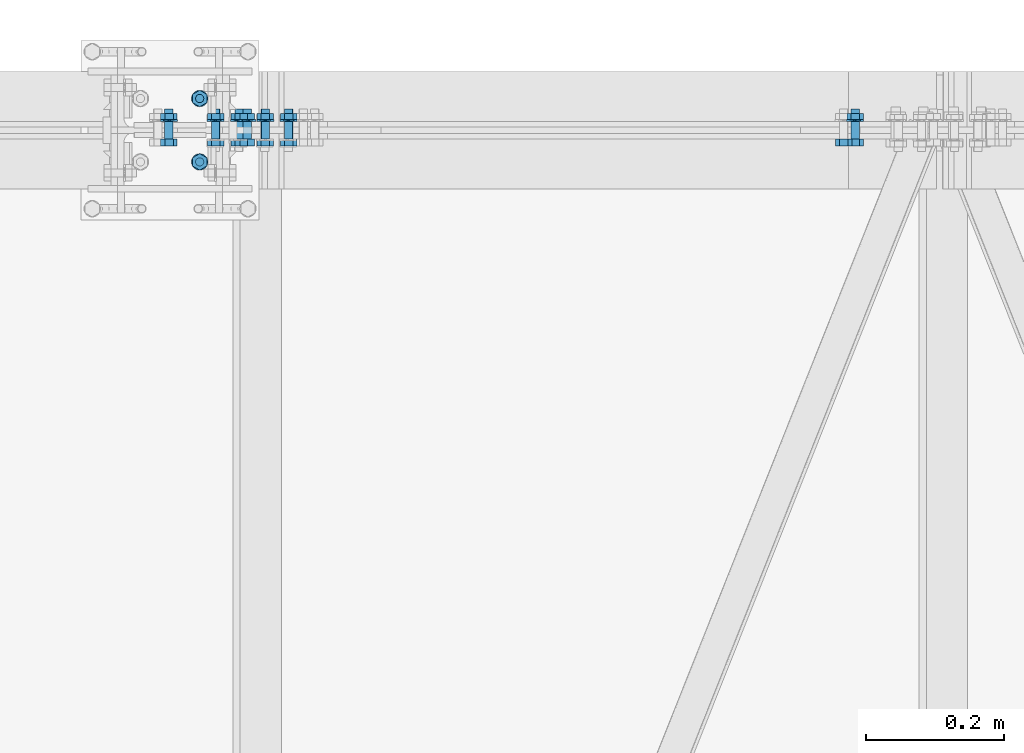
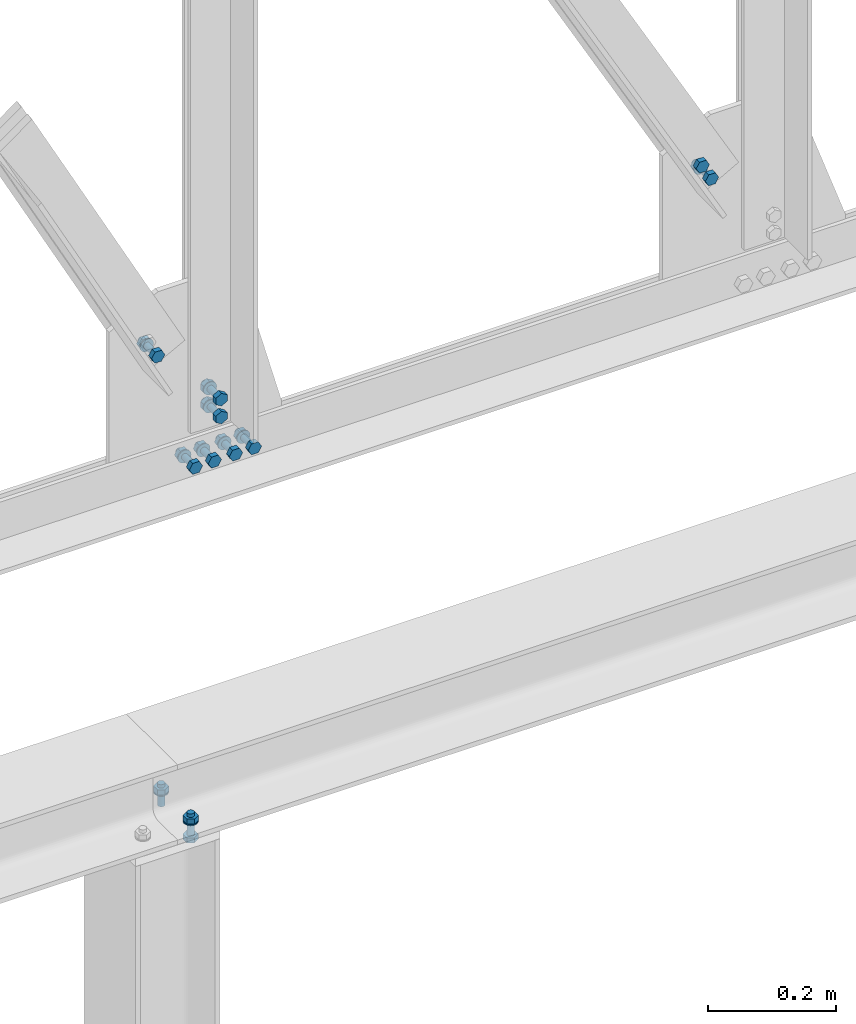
# One storey, part 203 of 251: 40 mechanical fasteners.
"""IFC4 building model written with IfcOpenShell, lengths in metres."""

from ifc_helpers import new_model, si_unit, frame, origin_with_axes, place, context, project, spatial, polyline, outline, extrude, type_object, element, save


model = new_model("IFC4")

# Units and contexts
model_context = context("Model", 3, precision=1e-05, world=origin_with_axes())
ifc_project = project(units=[si_unit("LENGTHUNIT", "METRE"), si_unit("AREAUNIT", "SQUARE_METRE"), si_unit("VOLUMEUNIT", "CUBIC_METRE"), si_unit("MASSUNIT", "GRAM", prefix="KILO"), si_unit("TIMEUNIT", "SECOND"), si_unit("PLANEANGLEUNIT", "RADIAN"), si_unit("SOLIDANGLEUNIT", "STERADIAN"), si_unit("THERMODYNAMICTEMPERATUREUNIT", "DEGREE_CELSIUS")], contexts=[model_context])

# Site, building, storey
placement_1 = place(None, origin_with_axes())
site = spatial("IfcSite", under=ifc_project, at=placement_1, Name="Italia", CompositionType="ELEMENT")
building = spatial("IfcBuilding", under=site, at=placement_1, Name="Deposito", CompositionType="ELEMENT")
storey = spatial("IfcBuildingStorey", under=building, at=placement_1, Name="Storey 0", CompositionType="ELEMENT", Elevation=0.0)

# Mechanical fasteners
mechanical_fastener_type_1 = type_object("IfcMechanicalFastenerType", Name="Collegamenti 7068_-014 7074_-015", PredefinedType="BOLT")
placement_2 = place(placement_1, origin_with_axes())
mechanical_fastener_1_placement = place(placement_2, origin_with_axes())
element("IfcMechanicalFastener", 1, at=mechanical_fastener_1_placement, inside=storey, type_object=mechanical_fastener_type_1, Name="Collegamenti 7068_-014 7074_-015", NominalDiameter=0.012, context=model_context, shape_type="SweptSolid", body=[
    extrude(outline(polyline([(0.0, 0.0), (-0.000204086, -0.00155258), (-0.000804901, -0.00300026), (-0.00175858, -0.0042429), (-0.00300026, -0.00519657), (-0.00444794, -0.00579548), (-0.00600052, -0.00599957), (-0.0075531, -0.00579548), (-0.00900078, -0.00519657), (-0.0102425, -0.0042429), (-0.0111961, -0.00300026), (-0.011797, -0.00155258), (-0.012001, 0.0), (-0.011797, 0.00155258), (-0.0111961, 0.00300026), (-0.0102425, 0.0042429), (-0.00900078, 0.00519657), (-0.0075531, 0.00579548), (-0.00600052, 0.00599957), (-0.00444794, 0.00579548), (-0.00300026, 0.00519657), (-0.00175858, 0.0042429), (-0.000804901, 0.00300026), (-0.000204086, 0.00155258), (0.0, 0.0)])), frame((10.958, 20.052, 4.375), z_axis=(0.0, 0.0, -1.0), x_axis=(0.0, 1.0, 0.0)), (0.0, 0.0, 1.0), 0.0419998),
])
mechanical_fastener_type_2 = type_object("IfcMechanicalFastenerType", Name="Collegamenti 7068_-014 7074_-015", PredefinedType="BOLT")
mechanical_fastener_2_placement = place(placement_2, origin_with_axes())
element("IfcMechanicalFastener", 2, at=mechanical_fastener_2_placement, inside=storey, type_object=mechanical_fastener_type_2, Name="Collegamenti 7068_-014 7074_-015", NominalDiameter=0.0119991, context=model_context, shape_type="SweptSolid", body=[
    extrude(outline(polyline([(0.0, 0.0), (0.0119991, 0.0), (0.0179996, -0.0103922), (0.0119991, -0.0207844), (0.0, -0.0207844), (-0.00600052, -0.0103922), (0.0, 0.0)])), frame((10.9684, 20.04, 4.3686), z_axis=(0.0, 0.0, -1.0), x_axis=(0.0, 1.0, 0.0)), (0.0, 0.0, 1.0), 0.00959969),
])
mechanical_fastener_type_3 = type_object("IfcMechanicalFastenerType", Name="Collegamenti 7068_-014 7074_-015", PredefinedType="BOLT")
mechanical_fastener_3_placement = place(placement_2, origin_with_axes())
element("IfcMechanicalFastener", 3, at=mechanical_fastener_3_placement, inside=storey, type_object=mechanical_fastener_type_3, Name="Collegamenti 7068_-014 7074_-015", NominalDiameter=0.024, context=model_context, shape_type="SweptSolid", body=[
    extrude(outline(polyline([(0.0, 0.0), (-0.000408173, -0.00310612), (-0.00160599, -0.00599957), (-0.00351334, -0.00848484), (-0.00599861, -0.0103922), (-0.00889397, -0.011591), (-0.0119991, -0.0120001), (-0.0151043, -0.011591), (-0.0179996, -0.0103922), (-0.0204849, -0.00848484), (-0.0223923, -0.00599957), (-0.0235901, -0.00310612), (-0.0239983, 0.0), (-0.0235901, 0.00310612), (-0.0223923, 0.00599957), (-0.0204849, 0.00848484), (-0.0179996, 0.0103922), (-0.0151043, 0.011591), (-0.0119991, 0.0120001), (-0.00889397, 0.011591), (-0.00599861, 0.0103922), (-0.00351334, 0.00848484), (-0.00160599, 0.00599957), (-0.000408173, 0.00310612), (0.0, 0.0)])), frame((10.958, 20.058, 4.359), z_axis=(0.0, 0.0, -1.0), x_axis=(0.0, 1.0, 0.0)), (0.0, 0.0, 1.0), 0.00200033),
])
mechanical_fastener_type_4 = type_object("IfcMechanicalFastenerType", Name="Collegamenti 7068_-014 7074_-015", PredefinedType="BOLT")
mechanical_fastener_4_placement = place(placement_2, origin_with_axes())
element("IfcMechanicalFastener", 4, at=mechanical_fastener_4_placement, inside=storey, type_object=mechanical_fastener_type_4, Name="Collegamenti 7068_-014 7074_-015", NominalDiameter=0.0119991, context=model_context, shape_type="SweptSolid", body=[
    extrude(outline(polyline([(0.0, 0.0), (0.0119991, 0.0), (0.0179996, -0.0103922), (0.0119991, -0.0207844), (0.0, -0.0207844), (-0.00600052, -0.0103922), (0.0, 0.0)])), frame((10.9684, 19.948, 4.333), z_axis=(0.0, 0.0, -1.0), x_axis=(0.0, 1.0, 0.0)), (0.0, 0.0, 1.0), 0.00960016),
])
mechanical_fastener_type_5 = type_object("IfcMechanicalFastenerType", Name="Collegamenti 7068_-014 7074_-015", PredefinedType="BOLT")
mechanical_fastener_5_placement = place(placement_2, origin_with_axes())
element("IfcMechanicalFastener", 5, at=mechanical_fastener_5_placement, inside=storey, type_object=mechanical_fastener_type_5, Name="Collegamenti 7068_-014 7074_-015", NominalDiameter=0.012, context=model_context, shape_type="SweptSolid", body=[
    extrude(outline(polyline([(0.0, 0.0), (-0.000204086, -0.00155258), (-0.000804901, -0.00300026), (-0.00175858, -0.0042429), (-0.00300026, -0.00519657), (-0.00444794, -0.00579548), (-0.00600052, -0.00599957), (-0.0075531, -0.00579548), (-0.00900078, -0.00519657), (-0.0102425, -0.0042429), (-0.0111961, -0.00300026), (-0.011797, -0.00155258), (-0.012001, 0.0), (-0.011797, 0.00155258), (-0.0111961, 0.00300026), (-0.0102425, 0.0042429), (-0.00900078, 0.00519657), (-0.0075531, 0.00579548), (-0.00600052, 0.00599957), (-0.00444794, 0.00579548), (-0.00300026, 0.00519657), (-0.00175858, 0.0042429), (-0.000804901, 0.00300026), (-0.000204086, 0.00155258), (0.0, 0.0)])), frame((10.958, 19.96, 4.375), z_axis=(0.0, 0.0, -1.0), x_axis=(0.0, 1.0, 0.0)), (0.0, 0.0, 1.0), 0.0419998),
])
mechanical_fastener_type_6 = type_object("IfcMechanicalFastenerType", Name="Collegamenti 7068_-014 7074_-015", PredefinedType="BOLT")
mechanical_fastener_6_placement = place(placement_2, origin_with_axes())
element("IfcMechanicalFastener", 6, at=mechanical_fastener_6_placement, inside=storey, type_object=mechanical_fastener_type_6, Name="Collegamenti 7068_-014 7074_-015", NominalDiameter=0.0119991, context=model_context, shape_type="SweptSolid", body=[
    extrude(outline(polyline([(0.0, 0.0), (0.0119991, 0.0), (0.0179996, -0.0103922), (0.0119991, -0.0207844), (0.0, -0.0207844), (-0.00600052, -0.0103922), (0.0, 0.0)])), frame((10.9684, 19.948, 4.3686), z_axis=(0.0, 0.0, -1.0), x_axis=(0.0, 1.0, 0.0)), (0.0, 0.0, 1.0), 0.00959969),
])
mechanical_fastener_type_7 = type_object("IfcMechanicalFastenerType", Name="Collegamenti 7068_-014 7074_-015", PredefinedType="BOLT")
mechanical_fastener_7_placement = place(placement_2, origin_with_axes())
element("IfcMechanicalFastener", 7, at=mechanical_fastener_7_placement, inside=storey, type_object=mechanical_fastener_type_7, Name="Collegamenti 7068_-014 7074_-015", NominalDiameter=0.024, context=model_context, shape_type="SweptSolid", body=[
    extrude(outline(polyline([(0.0, 0.0), (-0.000408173, -0.00310612), (-0.00160599, -0.00599957), (-0.00351334, -0.00848484), (-0.00599861, -0.0103922), (-0.00889397, -0.011591), (-0.0119991, -0.0120001), (-0.0151043, -0.011591), (-0.0179996, -0.0103922), (-0.0204849, -0.00848484), (-0.0223923, -0.00599957), (-0.0235901, -0.00310612), (-0.0239983, 0.0), (-0.0235901, 0.00310612), (-0.0223923, 0.00599957), (-0.0204849, 0.00848484), (-0.0179996, 0.0103922), (-0.0151043, 0.011591), (-0.0119991, 0.0120001), (-0.00889397, 0.011591), (-0.00599861, 0.0103922), (-0.00351334, 0.00848484), (-0.00160599, 0.00599957), (-0.000408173, 0.00310612), (0.0, 0.0)])), frame((10.958, 19.966, 4.359), z_axis=(0.0, 0.0, -1.0), x_axis=(0.0, 1.0, 0.0)), (0.0, 0.0, 1.0), 0.00200033),
])
mechanical_fastener_type_8 = type_object("IfcMechanicalFastenerType", Name="Reticolare 6", PredefinedType="BOLT")
mechanical_fastener_8_placement = place(placement_2, origin_with_axes())
element("IfcMechanicalFastener", 8, at=mechanical_fastener_8_placement, inside=storey, type_object=mechanical_fastener_type_8, Name="Reticolare 6", NominalDiameter=0.0119997, context=model_context, shape_type="SweptSolid", body=[
    extrude(outline(polyline([(0.0, 0.0), (-0.0120001, 0.0), (-0.0180006, 0.0103922), (-0.0120001, 0.0207844), (0.0, 0.0207844), (0.00599957, 0.0103922), (0.0, 0.0)])), frame((11.0212, 19.987, 4.99661), z_axis=(0.0, -1.0, 0.0), x_axis=(1.0, 0.0, 0.0)), (0.0, 0.0, 1.0), 0.00959969),
])
mechanical_fastener_type_9 = type_object("IfcMechanicalFastenerType", Name="Reticolare 6", PredefinedType="BOLT")
mechanical_fastener_9_placement = place(placement_2, origin_with_axes())
element("IfcMechanicalFastener", 9, at=mechanical_fastener_9_placement, inside=storey, type_object=mechanical_fastener_type_9, Name="Reticolare 6", NominalDiameter=0.012, context=model_context, shape_type="SweptSolid", body=[
    extrude(outline(polyline([(0.0, 0.0), (-0.000204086, -0.00155306), (-0.000802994, -0.00299978), (-0.00175667, -0.00424242), (-0.00299931, -0.00519609), (-0.00444698, -0.00579548), (-0.00599957, -0.00600004), (-0.00755215, -0.00579548), (-0.00899982, -0.00519609), (-0.0102425, -0.00424242), (-0.0111961, -0.00299978), (-0.011795, -0.00155306), (-0.0119991, 0.0), (-0.011795, 0.00155306), (-0.0111961, 0.00299978), (-0.0102425, 0.00424242), (-0.00899982, 0.00519609), (-0.00755215, 0.00579548), (-0.00599957, 0.00600004), (-0.00444698, 0.00579548), (-0.00299931, 0.00519609), (-0.00175667, 0.00424242), (-0.000802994, 0.00299978), (-0.000204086, 0.00155306), (0.0, 0.0)])), frame((11.0212, 20.031, 5.007), z_axis=(0.0, -1.0, 0.0), x_axis=(1.0, 0.0, 0.0)), (0.0, 0.0, 1.0), 0.0440006),
])
mechanical_fastener_type_10 = type_object("IfcMechanicalFastenerType", Name="Reticolare 6", PredefinedType="BOLT")
mechanical_fastener_10_placement = place(placement_2, origin_with_axes())
element("IfcMechanicalFastener", 10, at=mechanical_fastener_10_placement, inside=storey, type_object=mechanical_fastener_type_10, Name="Reticolare 6", NominalDiameter=0.0119997, context=model_context, shape_type="SweptSolid", body=[
    extrude(outline(polyline([(0.0, 0.0), (-0.0120001, 0.0), (-0.0180006, 0.0103922), (-0.0120001, 0.0207844), (0.0, 0.0207844), (0.00599957, 0.0103922), (0.0, 0.0)])), frame((11.0212, 20.0246, 4.99661), z_axis=(0.0, -1.0, 0.0), x_axis=(1.0, 0.0, 0.0)), (0.0, 0.0, 1.0), 0.00959969),
])
mechanical_fastener_type_11 = type_object("IfcMechanicalFastenerType", Name="Reticolare 6", PredefinedType="BOLT")
mechanical_fastener_11_placement = place(placement_2, origin_with_axes())
element("IfcMechanicalFastener", 11, at=mechanical_fastener_11_placement, inside=storey, type_object=mechanical_fastener_type_11, Name="Reticolare 6", NominalDiameter=0.024, context=model_context, shape_type="SweptSolid", body=[
    extrude(outline(polyline([(0.0, 0.0), (-0.000409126, -0.00310564), (-0.00160789, -0.00600004), (-0.00351524, -0.00848532), (-0.00600052, -0.0103922), (-0.00889397, -0.011591), (-0.0120001, -0.0120001), (-0.0151062, -0.011591), (-0.0179996, -0.0103922), (-0.0204849, -0.00848532), (-0.0223923, -0.00600004), (-0.023591, -0.00310564), (-0.0240002, 0.0), (-0.023591, 0.00310564), (-0.0223923, 0.00600004), (-0.0204849, 0.00848532), (-0.0179996, 0.0103922), (-0.0151062, 0.011591), (-0.0120001, 0.0120001), (-0.00889397, 0.011591), (-0.00600052, 0.0103922), (-0.00351524, 0.00848532), (-0.00160789, 0.00600004), (-0.000409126, 0.00310564), (0.0, 0.0)])), frame((11.0272, 20.015, 5.007), z_axis=(0.0, -1.0, 0.0), x_axis=(1.0, 0.0, 0.0)), (0.0, 0.0, 1.0), 0.0019989),
])
mechanical_fastener_type_12 = type_object("IfcMechanicalFastenerType", Name="Reticolare 6", PredefinedType="BOLT")
mechanical_fastener_12_placement = place(placement_2, origin_with_axes())
element("IfcMechanicalFastener", 12, at=mechanical_fastener_12_placement, inside=storey, type_object=mechanical_fastener_type_12, Name="Reticolare 6", NominalDiameter=0.0119997, context=model_context, shape_type="SweptSolid", body=[
    extrude(outline(polyline([(0.0, 0.0), (-0.0120001, 0.0), (-0.0179996, 0.0103922), (-0.0120001, 0.0207844), (0.0, 0.0207844), (0.00599957, 0.0103922), (0.0, 0.0)])), frame((10.9872, 19.987, 4.99661), z_axis=(0.0, -1.0, 0.0), x_axis=(1.0, 0.0, 0.0)), (0.0, 0.0, 1.0), 0.00959969),
])
mechanical_fastener_type_13 = type_object("IfcMechanicalFastenerType", Name="Reticolare 6", PredefinedType="BOLT")
mechanical_fastener_13_placement = place(placement_2, origin_with_axes())
element("IfcMechanicalFastener", 13, at=mechanical_fastener_13_placement, inside=storey, type_object=mechanical_fastener_type_13, Name="Reticolare 6", NominalDiameter=0.012, context=model_context, shape_type="SweptSolid", body=[
    extrude(outline(polyline([(0.0, 0.0), (-0.000204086, -0.00155306), (-0.000802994, -0.00299978), (-0.00175667, -0.00424242), (-0.00299931, -0.00519609), (-0.00444698, -0.00579548), (-0.00599957, -0.00600004), (-0.00755215, -0.00579548), (-0.00899982, -0.00519609), (-0.0102425, -0.00424242), (-0.0111961, -0.00299978), (-0.011795, -0.00155306), (-0.0119991, 0.0), (-0.011795, 0.00155306), (-0.0111961, 0.00299978), (-0.0102425, 0.00424242), (-0.00899982, 0.00519609), (-0.00755215, 0.00579548), (-0.00599957, 0.00600004), (-0.00444698, 0.00579548), (-0.00299931, 0.00519609), (-0.00175667, 0.00424242), (-0.000802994, 0.00299978), (-0.000204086, 0.00155306), (0.0, 0.0)])), frame((10.9872, 20.031, 5.007), z_axis=(0.0, -1.0, 0.0), x_axis=(1.0, 0.0, 0.0)), (0.0, 0.0, 1.0), 0.0440006),
])
mechanical_fastener_type_14 = type_object("IfcMechanicalFastenerType", Name="Reticolare 6", PredefinedType="BOLT")
mechanical_fastener_14_placement = place(placement_2, origin_with_axes())
element("IfcMechanicalFastener", 14, at=mechanical_fastener_14_placement, inside=storey, type_object=mechanical_fastener_type_14, Name="Reticolare 6", NominalDiameter=0.0119997, context=model_context, shape_type="SweptSolid", body=[
    extrude(outline(polyline([(0.0, 0.0), (-0.0120001, 0.0), (-0.0179996, 0.0103922), (-0.0120001, 0.0207844), (0.0, 0.0207844), (0.00599957, 0.0103922), (0.0, 0.0)])), frame((10.9872, 20.0246, 4.99661), z_axis=(0.0, -1.0, 0.0), x_axis=(1.0, 0.0, 0.0)), (0.0, 0.0, 1.0), 0.00959969),
])
mechanical_fastener_type_15 = type_object("IfcMechanicalFastenerType", Name="Reticolare 6", PredefinedType="BOLT")
mechanical_fastener_15_placement = place(placement_2, origin_with_axes())
element("IfcMechanicalFastener", 15, at=mechanical_fastener_15_placement, inside=storey, type_object=mechanical_fastener_type_15, Name="Reticolare 6", NominalDiameter=0.024, context=model_context, shape_type="SweptSolid", body=[
    extrude(outline(polyline([(0.0, 0.0), (-0.000409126, -0.00310564), (-0.00160789, -0.00600004), (-0.00351524, -0.00848532), (-0.00600052, -0.0103922), (-0.00889397, -0.011591), (-0.0120001, -0.0120001), (-0.0151062, -0.011591), (-0.0179996, -0.0103922), (-0.0204849, -0.00848532), (-0.0223923, -0.00600004), (-0.023591, -0.00310564), (-0.0240002, 0.0), (-0.023591, 0.00310564), (-0.0223923, 0.00600004), (-0.0204849, 0.00848532), (-0.0179996, 0.0103922), (-0.0151062, 0.011591), (-0.0120001, 0.0120001), (-0.00889397, 0.011591), (-0.00600052, 0.0103922), (-0.00351524, 0.00848532), (-0.00160789, 0.00600004), (-0.000409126, 0.00310564), (0.0, 0.0)])), frame((10.9932, 20.015, 5.007), z_axis=(0.0, -1.0, 0.0), x_axis=(1.0, 0.0, 0.0)), (0.0, 0.0, 1.0), 0.0019989),
])
mechanical_fastener_type_16 = type_object("IfcMechanicalFastenerType", Name="Reticolare 6", PredefinedType="BOLT")
mechanical_fastener_16_placement = place(placement_2, origin_with_axes())
element("IfcMechanicalFastener", 16, at=mechanical_fastener_16_placement, inside=storey, type_object=mechanical_fastener_type_16, Name="Reticolare 6", NominalDiameter=0.0119997, context=model_context, shape_type="SweptSolid", body=[
    extrude(outline(polyline([(0.0, 0.0), (-0.0120001, 0.0), (-0.0179996, 0.0103922), (-0.0120001, 0.0207844), (0.0, 0.0207844), (0.00600052, 0.0103922), (0.0, 0.0)])), frame((11.0592, 19.987, 4.99661), z_axis=(0.0, -1.0, 0.0), x_axis=(1.0, 0.0, 0.0)), (0.0, 0.0, 1.0), 0.00959969),
])
mechanical_fastener_type_17 = type_object("IfcMechanicalFastenerType", Name="Reticolare 6", PredefinedType="BOLT")
mechanical_fastener_17_placement = place(placement_2, origin_with_axes())
element("IfcMechanicalFastener", 17, at=mechanical_fastener_17_placement, inside=storey, type_object=mechanical_fastener_type_17, Name="Reticolare 6", NominalDiameter=0.012, context=model_context, shape_type="SweptSolid", body=[
    extrude(outline(polyline([(0.0, 0.0), (-0.000204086, -0.00155306), (-0.000802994, -0.00299978), (-0.00175667, -0.00424242), (-0.00299931, -0.00519609), (-0.00444698, -0.00579548), (-0.00599957, -0.00600004), (-0.00755215, -0.00579548), (-0.00899982, -0.00519609), (-0.0102425, -0.00424242), (-0.0111961, -0.00299978), (-0.011795, -0.00155306), (-0.0119991, 0.0), (-0.011795, 0.00155306), (-0.0111961, 0.00299978), (-0.0102425, 0.00424242), (-0.00899982, 0.00519609), (-0.00755215, 0.00579548), (-0.00599957, 0.00600004), (-0.00444698, 0.00579548), (-0.00299931, 0.00519609), (-0.00175667, 0.00424242), (-0.000802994, 0.00299978), (-0.000204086, 0.00155306), (0.0, 0.0)])), frame((11.0592, 20.031, 5.007), z_axis=(0.0, -1.0, 0.0), x_axis=(1.0, 0.0, 0.0)), (0.0, 0.0, 1.0), 0.0440006),
])
mechanical_fastener_type_18 = type_object("IfcMechanicalFastenerType", Name="Reticolare 6", PredefinedType="BOLT")
mechanical_fastener_18_placement = place(placement_2, origin_with_axes())
element("IfcMechanicalFastener", 18, at=mechanical_fastener_18_placement, inside=storey, type_object=mechanical_fastener_type_18, Name="Reticolare 6", NominalDiameter=0.0119997, context=model_context, shape_type="SweptSolid", body=[
    extrude(outline(polyline([(0.0, 0.0), (-0.0120001, 0.0), (-0.0179996, 0.0103922), (-0.0120001, 0.0207844), (0.0, 0.0207844), (0.00600052, 0.0103922), (0.0, 0.0)])), frame((11.0592, 20.0246, 4.99661), z_axis=(0.0, -1.0, 0.0), x_axis=(1.0, 0.0, 0.0)), (0.0, 0.0, 1.0), 0.00959969),
])
mechanical_fastener_type_19 = type_object("IfcMechanicalFastenerType", Name="Reticolare 6", PredefinedType="BOLT")
mechanical_fastener_19_placement = place(placement_2, origin_with_axes())
element("IfcMechanicalFastener", 19, at=mechanical_fastener_19_placement, inside=storey, type_object=mechanical_fastener_type_19, Name="Reticolare 6", NominalDiameter=0.024, context=model_context, shape_type="SweptSolid", body=[
    extrude(outline(polyline([(0.0, 0.0), (-0.000409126, -0.00310564), (-0.00160789, -0.00600004), (-0.00351524, -0.00848532), (-0.00600052, -0.0103922), (-0.00889397, -0.011591), (-0.0120001, -0.0120001), (-0.0151062, -0.011591), (-0.0179996, -0.0103922), (-0.0204849, -0.00848532), (-0.0223923, -0.00600004), (-0.023591, -0.00310564), (-0.0240002, 0.0), (-0.023591, 0.00310564), (-0.0223923, 0.00600004), (-0.0204849, 0.00848532), (-0.0179996, 0.0103922), (-0.0151062, 0.011591), (-0.0120001, 0.0120001), (-0.00889397, 0.011591), (-0.00600052, 0.0103922), (-0.00351524, 0.00848532), (-0.00160789, 0.00600004), (-0.000409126, 0.00310564), (0.0, 0.0)])), frame((11.0652, 20.015, 5.007), z_axis=(0.0, -1.0, 0.0), x_axis=(1.0, 0.0, 0.0)), (0.0, 0.0, 1.0), 0.0019989),
])
mechanical_fastener_type_20 = type_object("IfcMechanicalFastenerType", Name="Reticolare 6", PredefinedType="BOLT")
mechanical_fastener_20_placement = place(placement_2, origin_with_axes())
element("IfcMechanicalFastener", 20, at=mechanical_fastener_20_placement, inside=storey, type_object=mechanical_fastener_type_20, Name="Reticolare 6", NominalDiameter=0.0119997, context=model_context, shape_type="SweptSolid", body=[
    extrude(outline(polyline([(0.0, 0.0), (-0.0120001, 0.0), (-0.0179996, 0.0103922), (-0.0120001, 0.0207844), (0.0, 0.0207844), (0.00599957, 0.0103922), (0.0, 0.0)])), frame((11.0932, 19.987, 4.99661), z_axis=(0.0, -1.0, 0.0), x_axis=(1.0, 0.0, 0.0)), (0.0, 0.0, 1.0), 0.00959969),
])
mechanical_fastener_type_21 = type_object("IfcMechanicalFastenerType", Name="Reticolare 6", PredefinedType="BOLT")
mechanical_fastener_21_placement = place(placement_2, origin_with_axes())
element("IfcMechanicalFastener", 21, at=mechanical_fastener_21_placement, inside=storey, type_object=mechanical_fastener_type_21, Name="Reticolare 6", NominalDiameter=0.012, context=model_context, shape_type="SweptSolid", body=[
    extrude(outline(polyline([(0.0, 0.0), (-0.000204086, -0.00155306), (-0.000802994, -0.00299978), (-0.00175667, -0.00424242), (-0.00299931, -0.00519609), (-0.00444698, -0.00579548), (-0.00599957, -0.00600004), (-0.00755215, -0.00579548), (-0.00899982, -0.00519609), (-0.0102425, -0.00424242), (-0.0111961, -0.00299978), (-0.011795, -0.00155306), (-0.0119991, 0.0), (-0.011795, 0.00155306), (-0.0111961, 0.00299978), (-0.0102425, 0.00424242), (-0.00899982, 0.00519609), (-0.00755215, 0.00579548), (-0.00599957, 0.00600004), (-0.00444698, 0.00579548), (-0.00299931, 0.00519609), (-0.00175667, 0.00424242), (-0.000802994, 0.00299978), (-0.000204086, 0.00155306), (0.0, 0.0)])), frame((11.0932, 20.031, 5.007), z_axis=(0.0, -1.0, 0.0), x_axis=(1.0, 0.0, 0.0)), (0.0, 0.0, 1.0), 0.0440006),
])
mechanical_fastener_type_22 = type_object("IfcMechanicalFastenerType", Name="Reticolare 6", PredefinedType="BOLT")
mechanical_fastener_22_placement = place(placement_2, origin_with_axes())
element("IfcMechanicalFastener", 22, at=mechanical_fastener_22_placement, inside=storey, type_object=mechanical_fastener_type_22, Name="Reticolare 6", NominalDiameter=0.0119997, context=model_context, shape_type="SweptSolid", body=[
    extrude(outline(polyline([(0.0, 0.0), (-0.0120001, 0.0), (-0.0179996, 0.0103922), (-0.0120001, 0.0207844), (0.0, 0.0207844), (0.00599957, 0.0103922), (0.0, 0.0)])), frame((11.0932, 20.0246, 4.99661), z_axis=(0.0, -1.0, 0.0), x_axis=(1.0, 0.0, 0.0)), (0.0, 0.0, 1.0), 0.00959969),
])
mechanical_fastener_type_23 = type_object("IfcMechanicalFastenerType", Name="Reticolare 6", PredefinedType="BOLT")
mechanical_fastener_23_placement = place(placement_2, origin_with_axes())
element("IfcMechanicalFastener", 23, at=mechanical_fastener_23_placement, inside=storey, type_object=mechanical_fastener_type_23, Name="Reticolare 6", NominalDiameter=0.024, context=model_context, shape_type="SweptSolid", body=[
    extrude(outline(polyline([(0.0, 0.0), (-0.000409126, -0.00310564), (-0.00160789, -0.00600004), (-0.00351524, -0.00848532), (-0.00600052, -0.0103922), (-0.00889397, -0.011591), (-0.0120001, -0.0120001), (-0.0151062, -0.011591), (-0.0179996, -0.0103922), (-0.0204849, -0.00848532), (-0.0223923, -0.00600004), (-0.023591, -0.00310564), (-0.0240002, 0.0), (-0.023591, 0.00310564), (-0.0223923, 0.00600004), (-0.0204849, 0.00848532), (-0.0179996, 0.0103922), (-0.0151062, 0.011591), (-0.0120001, 0.0120001), (-0.00889397, 0.011591), (-0.00600052, 0.0103922), (-0.00351524, 0.00848532), (-0.00160789, 0.00600004), (-0.000409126, 0.00310564), (0.0, 0.0)])), frame((11.0992, 20.015, 5.007), z_axis=(0.0, -1.0, 0.0), x_axis=(1.0, 0.0, 0.0)), (0.0, 0.0, 1.0), 0.0019989),
])
mechanical_fastener_type_24 = type_object("IfcMechanicalFastenerType", Name="Reticolare 6", PredefinedType="BOLT")
mechanical_fastener_24_placement = place(placement_2, origin_with_axes())
element("IfcMechanicalFastener", 24, at=mechanical_fastener_24_placement, inside=storey, type_object=mechanical_fastener_type_24, Name="Reticolare 6", NominalDiameter=0.0119999, context=model_context, shape_type="SweptSolid", body=[
    extrude(outline(polyline([(0.0, 0.0), (0.0, -0.0120001), (-0.0103922, -0.0180001), (-0.0207844, -0.0120001), (-0.0207844, 0.0), (-0.0103922, 0.00600004), (0.0, 0.0)])), frame((11.0376, 19.987, 5.09253), z_axis=(0.0, -1.0, 0.0), x_axis=(1.0, 0.0, 0.0)), (0.0, 0.0, 1.0), 0.00959969),
])
mechanical_fastener_type_25 = type_object("IfcMechanicalFastenerType", Name="Reticolare 6", PredefinedType="BOLT")
mechanical_fastener_25_placement = place(placement_2, origin_with_axes())
element("IfcMechanicalFastener", 25, at=mechanical_fastener_25_placement, inside=storey, type_object=mechanical_fastener_type_25, Name="Reticolare 6", NominalDiameter=0.012, context=model_context, shape_type="SweptSolid", body=[
    extrude(outline(polyline([(0.0, 0.0), (-0.000204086, -0.00155306), (-0.000802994, -0.00299978), (-0.00175667, -0.00424242), (-0.00299931, -0.00519609), (-0.00444698, -0.00579548), (-0.00599957, -0.00600004), (-0.00755215, -0.00579548), (-0.00899982, -0.00519609), (-0.0102425, -0.00424242), (-0.0111961, -0.00299978), (-0.011795, -0.00155306), (-0.0119991, 0.0), (-0.011795, 0.00155306), (-0.0111961, 0.00299978), (-0.0102425, 0.00424242), (-0.00899982, 0.00519609), (-0.00755215, 0.00579548), (-0.00599957, 0.00600004), (-0.00444698, 0.00579548), (-0.00299931, 0.00519609), (-0.00175667, 0.00424242), (-0.000802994, 0.00299978), (-0.000204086, 0.00155306), (0.0, 0.0)])), frame((11.0332, 20.031, 5.08653), z_axis=(0.0, -1.0, 0.0), x_axis=(1.0, 0.0, 0.0)), (0.0, 0.0, 1.0), 0.0440006),
])
mechanical_fastener_type_26 = type_object("IfcMechanicalFastenerType", Name="Reticolare 6", PredefinedType="BOLT")
mechanical_fastener_26_placement = place(placement_2, origin_with_axes())
element("IfcMechanicalFastener", 26, at=mechanical_fastener_26_placement, inside=storey, type_object=mechanical_fastener_type_26, Name="Reticolare 6", NominalDiameter=0.0119999, context=model_context, shape_type="SweptSolid", body=[
    extrude(outline(polyline([(0.0, 0.0), (0.0, -0.0120001), (-0.0103922, -0.0180001), (-0.0207844, -0.0120001), (-0.0207844, 0.0), (-0.0103922, 0.00600004), (0.0, 0.0)])), frame((11.0376, 20.0246, 5.09253), z_axis=(0.0, -1.0, 0.0), x_axis=(1.0, 0.0, 0.0)), (0.0, 0.0, 1.0), 0.00959969),
])
mechanical_fastener_type_27 = type_object("IfcMechanicalFastenerType", Name="Reticolare 6", PredefinedType="BOLT")
mechanical_fastener_27_placement = place(placement_2, origin_with_axes())
element("IfcMechanicalFastener", 27, at=mechanical_fastener_27_placement, inside=storey, type_object=mechanical_fastener_type_27, Name="Reticolare 6", NominalDiameter=0.024, context=model_context, shape_type="SweptSolid", body=[
    extrude(outline(polyline([(0.0, 0.0), (-0.000409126, -0.00310564), (-0.00160789, -0.00600004), (-0.00351524, -0.00848532), (-0.00600052, -0.0103922), (-0.00889397, -0.011591), (-0.0120001, -0.0120001), (-0.0151062, -0.011591), (-0.0179996, -0.0103922), (-0.0204849, -0.00848532), (-0.0223923, -0.00600004), (-0.023591, -0.00310564), (-0.0240002, 0.0), (-0.023591, 0.00310564), (-0.0223923, 0.00600004), (-0.0204849, 0.00848532), (-0.0179996, 0.0103922), (-0.0151062, 0.011591), (-0.0120001, 0.0120001), (-0.00889397, 0.011591), (-0.00600052, 0.0103922), (-0.00351524, 0.00848532), (-0.00160789, 0.00600004), (-0.000409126, 0.00310564), (0.0, 0.0)])), frame((11.0392, 20.015, 5.08653), z_axis=(0.0, -1.0, 0.0), x_axis=(1.0, 0.0, 0.0)), (0.0, 0.0, 1.0), 0.0019989),
])
mechanical_fastener_type_28 = type_object("IfcMechanicalFastenerType", Name="Reticolare 6", PredefinedType="BOLT")
mechanical_fastener_28_placement = place(placement_2, origin_with_axes())
element("IfcMechanicalFastener", 28, at=mechanical_fastener_28_placement, inside=storey, type_object=mechanical_fastener_type_28, Name="Reticolare 6", NominalDiameter=0.0119999, context=model_context, shape_type="SweptSolid", body=[
    extrude(outline(polyline([(0.0, 0.0), (0.0, -0.0120001), (-0.0103922, -0.0180001), (-0.0207844, -0.0120001), (-0.0207844, 0.0), (-0.0103922, 0.00600004), (0.0, 0.0)])), frame((11.0376, 19.987, 5.12653), z_axis=(0.0, -1.0, 0.0), x_axis=(1.0, 0.0, 0.0)), (0.0, 0.0, 1.0), 0.00959969),
])
mechanical_fastener_type_29 = type_object("IfcMechanicalFastenerType", Name="Reticolare 6", PredefinedType="BOLT")
mechanical_fastener_29_placement = place(placement_2, origin_with_axes())
element("IfcMechanicalFastener", 29, at=mechanical_fastener_29_placement, inside=storey, type_object=mechanical_fastener_type_29, Name="Reticolare 6", NominalDiameter=0.012, context=model_context, shape_type="SweptSolid", body=[
    extrude(outline(polyline([(0.0, 0.0), (-0.000204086, -0.00155306), (-0.000802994, -0.00299978), (-0.00175667, -0.00424242), (-0.00299931, -0.00519609), (-0.00444698, -0.00579548), (-0.00599957, -0.00600004), (-0.00755215, -0.00579548), (-0.00899982, -0.00519609), (-0.0102425, -0.00424242), (-0.0111961, -0.00299978), (-0.011795, -0.00155306), (-0.0119991, 0.0), (-0.011795, 0.00155306), (-0.0111961, 0.00299978), (-0.0102425, 0.00424242), (-0.00899982, 0.00519609), (-0.00755215, 0.00579548), (-0.00599957, 0.00600004), (-0.00444698, 0.00579548), (-0.00299931, 0.00519609), (-0.00175667, 0.00424242), (-0.000802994, 0.00299978), (-0.000204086, 0.00155306), (0.0, 0.0)])), frame((11.0332, 20.031, 5.12053), z_axis=(0.0, -1.0, 0.0), x_axis=(1.0, 0.0, 0.0)), (0.0, 0.0, 1.0), 0.0440006),
])
mechanical_fastener_type_30 = type_object("IfcMechanicalFastenerType", Name="Reticolare 6", PredefinedType="BOLT")
mechanical_fastener_30_placement = place(placement_2, origin_with_axes())
element("IfcMechanicalFastener", 30, at=mechanical_fastener_30_placement, inside=storey, type_object=mechanical_fastener_type_30, Name="Reticolare 6", NominalDiameter=0.0119999, context=model_context, shape_type="SweptSolid", body=[
    extrude(outline(polyline([(0.0, 0.0), (0.0, -0.0120001), (-0.0103922, -0.0180001), (-0.0207844, -0.0120001), (-0.0207844, 0.0), (-0.0103922, 0.00600004), (0.0, 0.0)])), frame((11.0376, 20.0246, 5.12653), z_axis=(0.0, -1.0, 0.0), x_axis=(1.0, 0.0, 0.0)), (0.0, 0.0, 1.0), 0.00959969),
])
mechanical_fastener_type_31 = type_object("IfcMechanicalFastenerType", Name="Reticolare 6", PredefinedType="BOLT")
mechanical_fastener_31_placement = place(placement_2, origin_with_axes())
element("IfcMechanicalFastener", 31, at=mechanical_fastener_31_placement, inside=storey, type_object=mechanical_fastener_type_31, Name="Reticolare 6", NominalDiameter=0.024, context=model_context, shape_type="SweptSolid", body=[
    extrude(outline(polyline([(0.0, 0.0), (-0.000409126, -0.00310564), (-0.00160789, -0.00600004), (-0.00351524, -0.00848532), (-0.00600052, -0.0103922), (-0.00889397, -0.011591), (-0.0120001, -0.0120001), (-0.0151062, -0.011591), (-0.0179996, -0.0103922), (-0.0204849, -0.00848532), (-0.0223923, -0.00600004), (-0.023591, -0.00310564), (-0.0240002, 0.0), (-0.023591, 0.00310564), (-0.0223923, 0.00600004), (-0.0204849, 0.00848532), (-0.0179996, 0.0103922), (-0.0151062, 0.011591), (-0.0120001, 0.0120001), (-0.00889397, 0.011591), (-0.00600052, 0.0103922), (-0.00351524, 0.00848532), (-0.00160789, 0.00600004), (-0.000409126, 0.00310564), (0.0, 0.0)])), frame((11.0392, 20.015, 5.12053), z_axis=(0.0, -1.0, 0.0), x_axis=(1.0, 0.0, 0.0)), (0.0, 0.0, 1.0), 0.0019989),
])
mechanical_fastener_type_32 = type_object("IfcMechanicalFastenerType", Name="Reticolare 6", PredefinedType="BOLT")
mechanical_fastener_32_placement = place(placement_2, origin_with_axes())
element("IfcMechanicalFastener", 32, at=mechanical_fastener_32_placement, inside=storey, type_object=mechanical_fastener_type_32, Name="Reticolare 6", NominalDiameter=0.0119996, context=model_context, shape_type="SweptSolid", body=[
    extrude(outline(polyline([(0.0, 0.0), (-0.00563812, 0.0105929), (0.000716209, 0.0207725), (0.0127087, 0.020359), (0.0183477, 0.0097661), (0.0119934, -0.000413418), (0.0, 0.0)])), frame((10.9069, 19.987, 5.23209), z_axis=(0.0, -1.0, 0.0), x_axis=(1.0, 0.0, 0.0)), (0.0, 0.0, 1.0), 0.00959969),
])
mechanical_fastener_type_33 = type_object("IfcMechanicalFastenerType", Name="Reticolare 6", PredefinedType="BOLT")
mechanical_fastener_33_placement = place(placement_2, origin_with_axes())
element("IfcMechanicalFastener", 33, at=mechanical_fastener_33_placement, inside=storey, type_object=mechanical_fastener_type_33, Name="Reticolare 6", NominalDiameter=0.012, context=model_context, shape_type="SweptSolid", body=[
    extrude(outline(polyline([(0.0, 0.0), (-0.000204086, -0.00155306), (-0.000802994, -0.00299978), (-0.00175667, -0.00424242), (-0.00299931, -0.00519609), (-0.00444698, -0.00579548), (-0.00599957, -0.00600004), (-0.00755215, -0.00579548), (-0.00899982, -0.00519609), (-0.0102425, -0.00424242), (-0.0111961, -0.00299978), (-0.011795, -0.00155306), (-0.0119991, 0.0), (-0.011795, 0.00155306), (-0.0111961, 0.00299978), (-0.0102425, 0.00424242), (-0.00899982, 0.00519609), (-0.00755215, 0.00579548), (-0.00599957, 0.00600004), (-0.00444698, 0.00579548), (-0.00299931, 0.00519609), (-0.00175667, 0.00424242), (-0.000802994, 0.00299978), (-0.000204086, 0.00155306), (0.0, 0.0)])), frame((10.9192, 20.031, 5.24226), z_axis=(0.0, -1.0, 0.0), x_axis=(1.0, 0.0, 0.0)), (0.0, 0.0, 1.0), 0.0440006),
])
mechanical_fastener_type_34 = type_object("IfcMechanicalFastenerType", Name="Reticolare 6", PredefinedType="BOLT")
mechanical_fastener_34_placement = place(placement_2, origin_with_axes())
element("IfcMechanicalFastener", 34, at=mechanical_fastener_34_placement, inside=storey, type_object=mechanical_fastener_type_34, Name="Reticolare 6", NominalDiameter=0.0119996, context=model_context, shape_type="SweptSolid", body=[
    extrude(outline(polyline([(0.0, 0.0), (-0.00563812, 0.0105929), (0.000716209, 0.0207725), (0.0127087, 0.020359), (0.0183477, 0.0097661), (0.0119934, -0.000413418), (0.0, 0.0)])), frame((10.9069, 20.0246, 5.23209), z_axis=(0.0, -1.0, 0.0), x_axis=(1.0, 0.0, 0.0)), (0.0, 0.0, 1.0), 0.00959969),
])
mechanical_fastener_type_35 = type_object("IfcMechanicalFastenerType", Name="Reticolare 6", PredefinedType="BOLT")
mechanical_fastener_35_placement = place(placement_2, origin_with_axes())
element("IfcMechanicalFastener", 35, at=mechanical_fastener_35_placement, inside=storey, type_object=mechanical_fastener_type_35, Name="Reticolare 6", NominalDiameter=0.024, context=model_context, shape_type="SweptSolid", body=[
    extrude(outline(polyline([(0.0, 0.0), (-0.000409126, -0.00310564), (-0.00160789, -0.00600004), (-0.00351524, -0.00848532), (-0.00600052, -0.0103922), (-0.00889397, -0.011591), (-0.0120001, -0.0120001), (-0.0151062, -0.011591), (-0.0179996, -0.0103922), (-0.0204849, -0.00848532), (-0.0223923, -0.00600004), (-0.023591, -0.00310564), (-0.0240002, 0.0), (-0.023591, 0.00310564), (-0.0223923, 0.00600004), (-0.0204849, 0.00848532), (-0.0179996, 0.0103922), (-0.0151062, 0.011591), (-0.0120001, 0.0120001), (-0.00889397, 0.011591), (-0.00600052, 0.0103922), (-0.00351524, 0.00848532), (-0.00160789, 0.00600004), (-0.000409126, 0.00310564), (0.0, 0.0)])), frame((10.9252, 20.015, 5.24226), z_axis=(0.0, -1.0, 0.0), x_axis=(1.0, 0.0, 0.0)), (0.0, 0.0, 1.0), 0.0019989),
])
mechanical_fastener_type_36 = type_object("IfcMechanicalFastenerType", Name="Reticolare 6", PredefinedType="BOLT")
mechanical_fastener_36_placement = place(placement_2, origin_with_axes())
element("IfcMechanicalFastener", 36, at=mechanical_fastener_36_placement, inside=storey, type_object=mechanical_fastener_type_36, Name="Reticolare 6", NominalDiameter=0.0119994, context=model_context, shape_type="SweptSolid", body=[
    extrude(outline(polyline([(0.0, 0.0), (-0.00584888, 0.0104775), (0.000300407, 0.0207825), (0.0122986, 0.0206094), (0.0181484, 0.0101314), (0.0119991, -0.000173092), (0.0, 0.0)])), frame((11.9034, 19.987, 5.22057), z_axis=(0.0, -1.0, 0.0), x_axis=(1.0, 0.0, 0.0)), (0.0, 0.0, 1.0), 0.00959969),
])
mechanical_fastener_type_37 = type_object("IfcMechanicalFastenerType", Name="Reticolare 6", PredefinedType="BOLT")
mechanical_fastener_37_placement = place(placement_2, origin_with_axes())
element("IfcMechanicalFastener", 37, at=mechanical_fastener_37_placement, inside=storey, type_object=mechanical_fastener_type_37, Name="Reticolare 6", NominalDiameter=0.012, context=model_context, shape_type="SweptSolid", body=[
    extrude(outline(polyline([(0.0, 0.0), (-0.000204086, -0.00155306), (-0.000802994, -0.00299978), (-0.00175667, -0.00424242), (-0.00299931, -0.00519609), (-0.00444698, -0.00579548), (-0.00599957, -0.00600004), (-0.00755215, -0.00579548), (-0.00899982, -0.00519609), (-0.0102425, -0.00424242), (-0.0111961, -0.00299978), (-0.011795, -0.00155306), (-0.0119991, 0.0), (-0.011795, 0.00155306), (-0.0111961, 0.00299978), (-0.0102425, 0.00424242), (-0.00899982, 0.00519609), (-0.00755215, 0.00579548), (-0.00599957, 0.00600004), (-0.00444698, 0.00579548), (-0.00299931, 0.00519609), (-0.00175667, 0.00424242), (-0.000802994, 0.00299978), (-0.000204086, 0.00155306), (0.0, 0.0)])), frame((11.9156, 20.031, 5.23087), z_axis=(0.0, -1.0, 0.0), x_axis=(1.0, 0.0, 0.0)), (0.0, 0.0, 1.0), 0.0440006),
])
mechanical_fastener_type_38 = type_object("IfcMechanicalFastenerType", Name="Reticolare 6", PredefinedType="BOLT")
mechanical_fastener_38_placement = place(placement_2, origin_with_axes())
element("IfcMechanicalFastener", 38, at=mechanical_fastener_38_placement, inside=storey, type_object=mechanical_fastener_type_38, Name="Reticolare 6", NominalDiameter=0.0119994, context=model_context, shape_type="SweptSolid", body=[
    extrude(outline(polyline([(0.0, 0.0), (-0.00584888, 0.0104775), (0.000300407, 0.0207825), (0.0122986, 0.0206094), (0.0181484, 0.0101314), (0.0119991, -0.000173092), (0.0, 0.0)])), frame((11.9034, 20.0246, 5.22057), z_axis=(0.0, -1.0, 0.0), x_axis=(1.0, 0.0, 0.0)), (0.0, 0.0, 1.0), 0.00959969),
])
mechanical_fastener_type_39 = type_object("IfcMechanicalFastenerType", Name="Reticolare 6", PredefinedType="BOLT")
mechanical_fastener_39_placement = place(placement_2, origin_with_axes())
element("IfcMechanicalFastener", 39, at=mechanical_fastener_39_placement, inside=storey, type_object=mechanical_fastener_type_39, Name="Reticolare 6", NominalDiameter=0.024, context=model_context, shape_type="SweptSolid", body=[
    extrude(outline(polyline([(0.0, 0.0), (-0.000409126, -0.00310564), (-0.00160789, -0.00600004), (-0.00351524, -0.00848532), (-0.00600052, -0.0103922), (-0.00889397, -0.011591), (-0.0120001, -0.0120001), (-0.0151062, -0.011591), (-0.0179996, -0.0103922), (-0.0204849, -0.00848532), (-0.0223923, -0.00600004), (-0.023591, -0.00310564), (-0.0240002, 0.0), (-0.023591, 0.00310564), (-0.0223923, 0.00600004), (-0.0204849, 0.00848532), (-0.0179996, 0.0103922), (-0.0151062, 0.011591), (-0.0120001, 0.0120001), (-0.00889397, 0.011591), (-0.00600052, 0.0103922), (-0.00351524, 0.00848532), (-0.00160789, 0.00600004), (-0.000409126, 0.00310564), (0.0, 0.0)])), frame((11.9216, 20.015, 5.23087), z_axis=(0.0, -1.0, 0.0), x_axis=(1.0, 0.0, 0.0)), (0.0, 0.0, 1.0), 0.0019989),
])
mechanical_fastener_type_40 = type_object("IfcMechanicalFastenerType", Name="Reticolare 6", PredefinedType="BOLT")
mechanical_fastener_40_placement = place(placement_2, origin_with_axes())
element("IfcMechanicalFastener", 40, at=mechanical_fastener_40_placement, inside=storey, type_object=mechanical_fastener_type_40, Name="Reticolare 6", NominalDiameter=0.0119994, context=model_context, shape_type="SweptSolid", body=[
    extrude(outline(polyline([(0.0, 0.0), (-0.00584984, 0.0104775), (0.000299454, 0.0207825), (0.0122986, 0.0206094), (0.0181475, 0.0101314), (0.0119982, -0.000173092), (0.0, 0.0)])), frame((11.8868, 19.987, 5.25025), z_axis=(0.0, -1.0, 0.0), x_axis=(1.0, 0.0, 0.0)), (0.0, 0.0, 1.0), 0.00959969),
])

save(model, "model.ifc")
